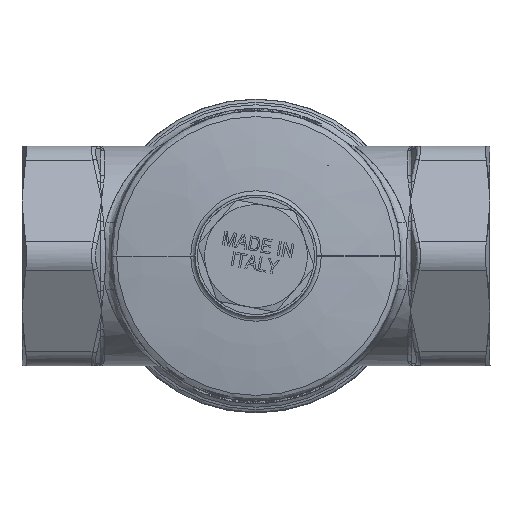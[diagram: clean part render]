
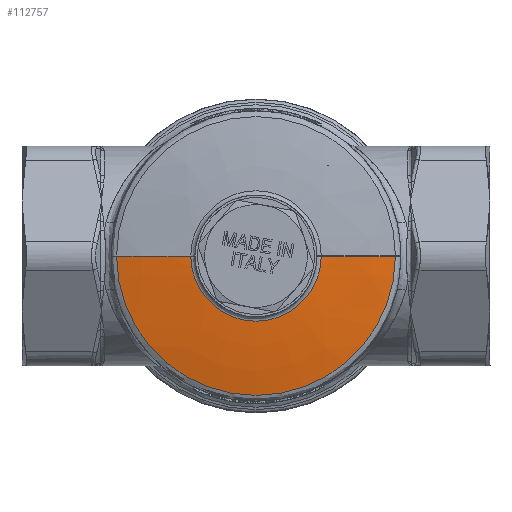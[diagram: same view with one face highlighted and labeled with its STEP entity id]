
A CAD part, front view. The second image highlights one B-rep face of the part: STEP entity #112757.
In plain terms, the highlighted free-form (B-spline) face has degree [3, 3] with [4, 4] control points.
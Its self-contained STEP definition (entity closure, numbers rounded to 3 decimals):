
#1100 = CARTESIAN_POINT ( 'NONE',  ( -24.546, -26.753, 0. ) ) ;
#6401 = VERTEX_POINT ( 'NONE', #94988 ) ;
#7363 = CARTESIAN_POINT ( 'NONE',  ( -29.785, -25.741, 0. ) ) ;
#12999 = CARTESIAN_POINT ( 'NONE',  ( -13.932, -27.802, -27.865 ) ) ;
#13039 = CARTESIAN_POINT ( 'NONE',  ( 0., -25.741, 0. ) ) ;
#13629 = DIRECTION ( 'NONE',  ( 1., 0., 0. ) ) ;
#18551 = EDGE_CURVE ( 'NONE', #127862, #95596, #97575, .T. ) ;
#20702 = CARTESIAN_POINT ( 'NONE',  ( 5.125, 101.899, 0. ) ) ;
#27112 = CARTESIAN_POINT ( 'NONE',  ( 13.932, -27.802, 0. ) ) ;
#29464 = CARTESIAN_POINT ( 'NONE',  ( 24.546, -26.753, 0. ) ) ;
#43904 = AXIS2_PLACEMENT_3D ( 'NONE', #20702, #45138, #129704 ) ;
#45138 = DIRECTION ( 'NONE',  ( 0., 0., -1. ) ) ;
#47541 = CARTESIAN_POINT ( 'NONE',  ( 29.785, -25.741, 0. ) ) ;
#49250 = CARTESIAN_POINT ( 'NONE',  ( -24.546, -26.753, -49.092 ) ) ;
#52042 = ORIENTED_EDGE ( 'NONE', *, *, #18551, .T. ) ;
#52386 = CARTESIAN_POINT ( 'NONE',  ( -29.785, -25.741, -59.569 ) ) ;
#60997 = DIRECTION ( 'NONE',  ( 0., 1., 0. ) ) ;
#62711 = FACE_OUTER_BOUND ( 'NONE', #149516, .T. ) ;
#63521 = CARTESIAN_POINT ( 'NONE',  ( -19.255, -27.441, -38.511 ) ) ;
#70747 = ORIENTED_EDGE ( 'NONE', *, *, #121142, .T. ) ;
#73015 = CARTESIAN_POINT ( 'NONE',  ( -19.255, -27.441, 0. ) ) ;
#76172 = CARTESIAN_POINT ( 'NONE',  ( 29.785, -25.741, 0. ) ) ;
#76721 = EDGE_CURVE ( 'NONE', #6401, #146714, #101721, .T. ) ;
#77173 = ORIENTED_EDGE ( 'NONE', *, *, #137138, .T. ) ;
#81128 = CARTESIAN_POINT ( 'NONE',  ( -13.932, -27.802, 0. ) ) ;
#84150 = DIRECTION ( 'NONE',  ( 0., -1., 0. ) ) ;
#85498 = CARTESIAN_POINT ( 'NONE',  ( 0., -27.802, 0. ) ) ;
#86784 = CIRCLE ( 'NONE', #43904, 130. ) ;
#87225 = CARTESIAN_POINT ( 'NONE',  ( -13.932, -27.802, 0. ) ) ;
#94988 = CARTESIAN_POINT ( 'NONE',  ( 13.932, -27.802, 0. ) ) ;
#95596 = VERTEX_POINT ( 'NONE', #47541 ) ;
#97502 = CARTESIAN_POINT ( 'NONE',  ( 24.546, -26.753, -49.092 ) ) ;
#97575 = CIRCLE ( 'NONE', #145502, 29.785 ) ;
#101721 = CIRCLE ( 'NONE', #139643, 13.932 ) ;
#102192 = CARTESIAN_POINT ( 'NONE',  ( 29.785, -25.741, -59.569 ) ) ;
#106721 = DIRECTION ( 'NONE',  ( 0., 0., -1. ) ) ;
#109398 = DIRECTION ( 'NONE',  ( 1., 0., 0. ) ) ;
#111525 =( BOUNDED_SURFACE ( )  B_SPLINE_SURFACE ( 3, 3, ( 
 ( #87225, #12999, #135381, #27112 ),
 ( #73015, #63521, #111732, #121176 ),
 ( #1100, #49250, #97502, #29464 ),
 ( #7363, #52386, #102192, #76172 ) ),
 .UNSPECIFIED., .F., .F., .T. ) 
 B_SPLINE_SURFACE_WITH_KNOTS ( ( 4, 4 ),
 ( 4, 4 ),
 ( 0., 1. ),
 ( 0., 1. ),
 .UNSPECIFIED. ) 
 GEOMETRIC_REPRESENTATION_ITEM ( )  RATIONAL_B_SPLINE_SURFACE ( (
 ( 1., 0.333, 0.333, 1.),
 ( 0.999, 0.333, 0.333, 0.999),
 ( 0.999, 0.333, 0.333, 0.999),
 ( 1., 0.333, 0.333, 1.) ) ) 
 REPRESENTATION_ITEM ( '' )  SURFACE ( )  );
#111732 = CARTESIAN_POINT ( 'NONE',  ( 19.255, -27.441, -38.511 ) ) ;
#112757 = ADVANCED_FACE ( 'NONE', ( #62711 ), #111525, .T. ) ;
#113400 = ORIENTED_EDGE ( 'NONE', *, *, #76721, .T. ) ;
#121142 = EDGE_CURVE ( 'NONE', #146714, #127862, #137959, .T. ) ;
#121176 = CARTESIAN_POINT ( 'NONE',  ( 19.255, -27.441, 0. ) ) ;
#127862 = VERTEX_POINT ( 'NONE', #128460 ) ;
#128460 = CARTESIAN_POINT ( 'NONE',  ( -29.785, -25.741, 0. ) ) ;
#129704 = DIRECTION ( 'NONE',  ( 1., 0., 0. ) ) ;
#135381 = CARTESIAN_POINT ( 'NONE',  ( 13.932, -27.802, -27.865 ) ) ;
#137138 = EDGE_CURVE ( 'NONE', #95596, #6401, #86784, .T. ) ;
#137959 = CIRCLE ( 'NONE', #148082, 130. ) ;
#139643 = AXIS2_PLACEMENT_3D ( 'NONE', #85498, #60997, #13629 ) ;
#140736 = CARTESIAN_POINT ( 'NONE',  ( -5.125, 101.899, 0. ) ) ;
#145502 = AXIS2_PLACEMENT_3D ( 'NONE', #13039, #84150, #109398 ) ;
#146714 = VERTEX_POINT ( 'NONE', #81128 ) ;
#148082 = AXIS2_PLACEMENT_3D ( 'NONE', #140736, #106721, #154854 ) ;
#149516 = EDGE_LOOP ( 'NONE', ( #52042, #77173, #113400, #70747 ) ) ;
#154854 = DIRECTION ( 'NONE',  ( -1., 0., 0. ) ) ;
